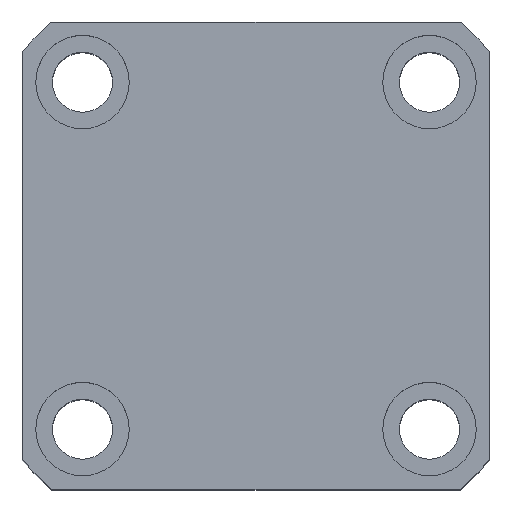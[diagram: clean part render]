
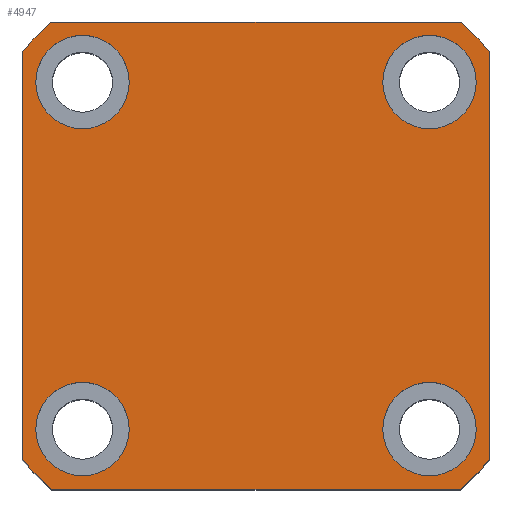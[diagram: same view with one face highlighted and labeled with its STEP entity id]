
A CAD part, top view. The second image highlights one B-rep face of the part: STEP entity #4947.
In plain terms, the highlighted planar face has unit normal (0, 0, 1).
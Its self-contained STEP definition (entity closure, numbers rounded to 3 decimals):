
#191 = ORIENTED_EDGE ( 'NONE', *, *, #5394, .T. ) ;
#483 = EDGE_CURVE ( 'NONE', #5171, #5254, #7690, .T. ) ;
#626 = EDGE_CURVE ( 'NONE', #6868, #4671, #2529, .T. ) ;
#682 = EDGE_LOOP ( 'NONE', ( #5959, #1573, #7720, #191, #7988, #5532, #7493, #9801 ) ) ;
#718 = EDGE_CURVE ( 'NONE', #3905, #5466, #5979, .T. ) ;
#860 = AXIS2_PLACEMENT_3D ( 'NONE', #3529, #9032, #4340 ) ;
#879 = DIRECTION ( 'NONE',  ( 1., 0., 0. ) ) ;
#930 = EDGE_LOOP ( 'NONE', ( #3141, #2770 ) ) ;
#1042 = CARTESIAN_POINT ( 'NONE',  ( 26., 26., 75. ) ) ;
#1139 = AXIS2_PLACEMENT_3D ( 'NONE', #8263, #3536, #9039 ) ;
#1159 = PLANE ( 'NONE',  #1139 ) ;
#1185 = VERTEX_POINT ( 'NONE', #2473 ) ;
#1265 = ORIENTED_EDGE ( 'NONE', *, *, #3661, .F. ) ;
#1312 = VERTEX_POINT ( 'NONE', #2625 ) ;
#1377 = FACE_BOUND ( 'NONE', #930, .T. ) ;
#1396 = DIRECTION ( 'NONE',  ( 0., 0., 1. ) ) ;
#1479 = AXIS2_PLACEMENT_3D ( 'NONE', #2637, #8155, #3427 ) ;
#1531 = DIRECTION ( 'NONE',  ( 0., 0., 1. ) ) ;
#1573 = ORIENTED_EDGE ( 'NONE', *, *, #4531, .T. ) ;
#1695 = CARTESIAN_POINT ( 'NONE',  ( -33., -26., 75. ) ) ;
#1785 = CARTESIAN_POINT ( 'NONE',  ( -26., -26., 75. ) ) ;
#1817 = CARTESIAN_POINT ( 'NONE',  ( 35., 35., 75. ) ) ;
#1848 = DIRECTION ( 'NONE',  ( 1., 0., 0. ) ) ;
#1949 = CARTESIAN_POINT ( 'NONE',  ( -30.615, 35., 75. ) ) ;
#2125 = CIRCLE ( 'NONE', #3992, 46.5 ) ;
#2128 = CARTESIAN_POINT ( 'NONE',  ( -33., 26., 75. ) ) ;
#2155 = CARTESIAN_POINT ( 'NONE',  ( -35., 35., 75. ) ) ;
#2350 = CARTESIAN_POINT ( 'NONE',  ( 19., -26., 75. ) ) ;
#2354 = AXIS2_PLACEMENT_3D ( 'NONE', #8051, #4162, #879 ) ;
#2473 = CARTESIAN_POINT ( 'NONE',  ( -19., 26., 75. ) ) ;
#2529 = CIRCLE ( 'NONE', #2354, 7. ) ;
#2585 = DIRECTION ( 'NONE',  ( 1., 0., 0. ) ) ;
#2625 = CARTESIAN_POINT ( 'NONE',  ( -30.615, -35., 75. ) ) ;
#2637 = CARTESIAN_POINT ( 'NONE',  ( 0., 0., 75. ) ) ;
#2646 = AXIS2_PLACEMENT_3D ( 'NONE', #6142, #1396, #6923 ) ;
#2661 = VECTOR ( 'NONE', #10022, 1000. ) ;
#2770 = ORIENTED_EDGE ( 'NONE', *, *, #9914, .F. ) ;
#2784 = DIRECTION ( 'NONE',  ( 0., 0., 1. ) ) ;
#2889 = LINE ( 'NONE', #7695, #8706 ) ;
#2957 = EDGE_CURVE ( 'NONE', #4671, #6868, #8307, .T. ) ;
#2969 = DIRECTION ( 'NONE',  ( 1., 0., 0. ) ) ;
#3039 = ORIENTED_EDGE ( 'NONE', *, *, #2957, .F. ) ;
#3044 = VERTEX_POINT ( 'NONE', #4430 ) ;
#3072 = DIRECTION ( 'NONE',  ( -1., 0., 0. ) ) ;
#3076 = CARTESIAN_POINT ( 'NONE',  ( 33., -26., 75. ) ) ;
#3141 = ORIENTED_EDGE ( 'NONE', *, *, #7549, .F. ) ;
#3156 = CIRCLE ( 'NONE', #5217, 7. ) ;
#3204 = EDGE_LOOP ( 'NONE', ( #7696, #3039 ) ) ;
#3232 = CARTESIAN_POINT ( 'NONE',  ( -19., -26., 75. ) ) ;
#3427 = DIRECTION ( 'NONE',  ( 1., 0., 0. ) ) ;
#3478 = FACE_OUTER_BOUND ( 'NONE', #682, .T. ) ;
#3529 = CARTESIAN_POINT ( 'NONE',  ( 26., 26., 75. ) ) ;
#3536 = DIRECTION ( 'NONE',  ( 0., 0., 1. ) ) ;
#3661 = EDGE_CURVE ( 'NONE', #7719, #1185, #5112, .T. ) ;
#3713 = DIRECTION ( 'NONE',  ( 0., 0., 1. ) ) ;
#3715 = EDGE_LOOP ( 'NONE', ( #6254, #1265 ) ) ;
#3741 = CARTESIAN_POINT ( 'NONE',  ( -26., -26., 75. ) ) ;
#3849 = CARTESIAN_POINT ( 'NONE',  ( 30.615, -35., 75. ) ) ;
#3872 = VECTOR ( 'NONE', #3072, 1000. ) ;
#3905 = VERTEX_POINT ( 'NONE', #7063 ) ;
#3915 = CARTESIAN_POINT ( 'NONE',  ( 35., -30.615, 75. ) ) ;
#3945 = CARTESIAN_POINT ( 'NONE',  ( 33., 26., 75. ) ) ;
#3951 = CIRCLE ( 'NONE', #860, 7. ) ;
#3960 = CIRCLE ( 'NONE', #6205, 7. ) ;
#3992 = AXIS2_PLACEMENT_3D ( 'NONE', #9415, #4733, #10210 ) ;
#4048 = VERTEX_POINT ( 'NONE', #4103 ) ;
#4103 = CARTESIAN_POINT ( 'NONE',  ( -35., 30.615, 75. ) ) ;
#4162 = DIRECTION ( 'NONE',  ( 0., 0., 1. ) ) ;
#4215 = CARTESIAN_POINT ( 'NONE',  ( 19., 26., 75. ) ) ;
#4301 = CARTESIAN_POINT ( 'NONE',  ( -35., 35., 75. ) ) ;
#4340 = DIRECTION ( 'NONE',  ( 1., 0., 0. ) ) ;
#4385 = CARTESIAN_POINT ( 'NONE',  ( 0., 0., 75. ) ) ;
#4430 = CARTESIAN_POINT ( 'NONE',  ( -35., -30.615, 75. ) ) ;
#4531 = EDGE_CURVE ( 'NONE', #5254, #3905, #2125, .T. ) ;
#4558 = DIRECTION ( 'NONE',  ( 1., 0., 0. ) ) ;
#4632 = AXIS2_PLACEMENT_3D ( 'NONE', #7520, #2784, #8300 ) ;
#4669 = ORIENTED_EDGE ( 'NONE', *, *, #8952, .F. ) ;
#4671 = VERTEX_POINT ( 'NONE', #2350 ) ;
#4733 = DIRECTION ( 'NONE',  ( 0., 0., 1. ) ) ;
#4800 = VERTEX_POINT ( 'NONE', #4215 ) ;
#4947 = ADVANCED_FACE ( 'NONE', ( #7435, #5345, #1377, #9516, #3478 ), #1159, .T. ) ;
#4988 = AXIS2_PLACEMENT_3D ( 'NONE', #3741, #9241, #4558 ) ;
#5050 = CIRCLE ( 'NONE', #1479, 46.5 ) ;
#5112 = CIRCLE ( 'NONE', #2646, 7. ) ;
#5155 = ORIENTED_EDGE ( 'NONE', *, *, #6009, .F. ) ;
#5171 = VERTEX_POINT ( 'NONE', #3915 ) ;
#5192 = DIRECTION ( 'NONE',  ( 1., 0., 0. ) ) ;
#5217 = AXIS2_PLACEMENT_3D ( 'NONE', #1042, #6572, #1848 ) ;
#5254 = VERTEX_POINT ( 'NONE', #5549 ) ;
#5345 = FACE_BOUND ( 'NONE', #3204, .T. ) ;
#5394 = EDGE_CURVE ( 'NONE', #5466, #4048, #5050, .T. ) ;
#5466 = VERTEX_POINT ( 'NONE', #1949 ) ;
#5532 = ORIENTED_EDGE ( 'NONE', *, *, #5689, .T. ) ;
#5549 = CARTESIAN_POINT ( 'NONE',  ( 35., 30.615, 75. ) ) ;
#5663 = AXIS2_PLACEMENT_3D ( 'NONE', #6278, #1531, #7054 ) ;
#5689 = EDGE_CURVE ( 'NONE', #3044, #1312, #6150, .T. ) ;
#5718 = AXIS2_PLACEMENT_3D ( 'NONE', #8449, #3713, #9221 ) ;
#5959 = ORIENTED_EDGE ( 'NONE', *, *, #483, .T. ) ;
#5979 = LINE ( 'NONE', #4301, #3872 ) ;
#6009 = EDGE_CURVE ( 'NONE', #6249, #8084, #6527, .T. ) ;
#6112 = VERTEX_POINT ( 'NONE', #3849 ) ;
#6142 = CARTESIAN_POINT ( 'NONE',  ( -26., 26., 75. ) ) ;
#6150 = CIRCLE ( 'NONE', #5718, 46.5 ) ;
#6205 = AXIS2_PLACEMENT_3D ( 'NONE', #1785, #7311, #2585 ) ;
#6249 = VERTEX_POINT ( 'NONE', #1695 ) ;
#6254 = ORIENTED_EDGE ( 'NONE', *, *, #6827, .F. ) ;
#6278 = CARTESIAN_POINT ( 'NONE',  ( -26., 26., 75. ) ) ;
#6527 = CIRCLE ( 'NONE', #4988, 7. ) ;
#6572 = DIRECTION ( 'NONE',  ( 0., 0., 1. ) ) ;
#6632 = CIRCLE ( 'NONE', #8371, 46.5 ) ;
#6827 = EDGE_CURVE ( 'NONE', #1185, #7719, #9065, .T. ) ;
#6848 = LINE ( 'NONE', #2155, #2661 ) ;
#6868 = VERTEX_POINT ( 'NONE', #3076 ) ;
#6923 = DIRECTION ( 'NONE',  ( 1., 0., 0. ) ) ;
#6964 = VECTOR ( 'NONE', #8415, 1000. ) ;
#7054 = DIRECTION ( 'NONE',  ( 1., 0., 0. ) ) ;
#7063 = CARTESIAN_POINT ( 'NONE',  ( 30.615, 35., 75. ) ) ;
#7311 = DIRECTION ( 'NONE',  ( 0., 0., 1. ) ) ;
#7435 = FACE_BOUND ( 'NONE', #8416, .T. ) ;
#7493 = ORIENTED_EDGE ( 'NONE', *, *, #8487, .T. ) ;
#7520 = CARTESIAN_POINT ( 'NONE',  ( 26., -26., 75. ) ) ;
#7549 = EDGE_CURVE ( 'NONE', #9324, #4800, #3156, .T. ) ;
#7577 = EDGE_CURVE ( 'NONE', #6112, #5171, #6632, .T. ) ;
#7690 = LINE ( 'NONE', #1817, #6964 ) ;
#7695 = CARTESIAN_POINT ( 'NONE',  ( -35., -35., 75. ) ) ;
#7696 = ORIENTED_EDGE ( 'NONE', *, *, #626, .F. ) ;
#7719 = VERTEX_POINT ( 'NONE', #2128 ) ;
#7720 = ORIENTED_EDGE ( 'NONE', *, *, #718, .T. ) ;
#7988 = ORIENTED_EDGE ( 'NONE', *, *, #8447, .T. ) ;
#8051 = CARTESIAN_POINT ( 'NONE',  ( 26., -26., 75. ) ) ;
#8084 = VERTEX_POINT ( 'NONE', #3232 ) ;
#8155 = DIRECTION ( 'NONE',  ( 0., 0., 1. ) ) ;
#8263 = CARTESIAN_POINT ( 'NONE',  ( 0., 0., 75. ) ) ;
#8300 = DIRECTION ( 'NONE',  ( 1., 0., 0. ) ) ;
#8307 = CIRCLE ( 'NONE', #4632, 7. ) ;
#8371 = AXIS2_PLACEMENT_3D ( 'NONE', #4385, #9869, #5192 ) ;
#8415 = DIRECTION ( 'NONE',  ( 0., 1., 0. ) ) ;
#8416 = EDGE_LOOP ( 'NONE', ( #4669, #5155 ) ) ;
#8447 = EDGE_CURVE ( 'NONE', #4048, #3044, #6848, .T. ) ;
#8449 = CARTESIAN_POINT ( 'NONE',  ( 0., 0., 75. ) ) ;
#8487 = EDGE_CURVE ( 'NONE', #1312, #6112, #2889, .T. ) ;
#8706 = VECTOR ( 'NONE', #2969, 1000. ) ;
#8952 = EDGE_CURVE ( 'NONE', #8084, #6249, #3960, .T. ) ;
#9032 = DIRECTION ( 'NONE',  ( 0., 0., 1. ) ) ;
#9039 = DIRECTION ( 'NONE',  ( 1., 0., 0. ) ) ;
#9065 = CIRCLE ( 'NONE', #5663, 7. ) ;
#9221 = DIRECTION ( 'NONE',  ( 1., 0., 0. ) ) ;
#9241 = DIRECTION ( 'NONE',  ( 0., 0., 1. ) ) ;
#9324 = VERTEX_POINT ( 'NONE', #3945 ) ;
#9415 = CARTESIAN_POINT ( 'NONE',  ( 0., 0., 75. ) ) ;
#9516 = FACE_BOUND ( 'NONE', #3715, .T. ) ;
#9801 = ORIENTED_EDGE ( 'NONE', *, *, #7577, .T. ) ;
#9869 = DIRECTION ( 'NONE',  ( 0., 0., 1. ) ) ;
#9914 = EDGE_CURVE ( 'NONE', #4800, #9324, #3951, .T. ) ;
#10022 = DIRECTION ( 'NONE',  ( 0., -1., 0. ) ) ;
#10210 = DIRECTION ( 'NONE',  ( 1., 0., 0. ) ) ;
